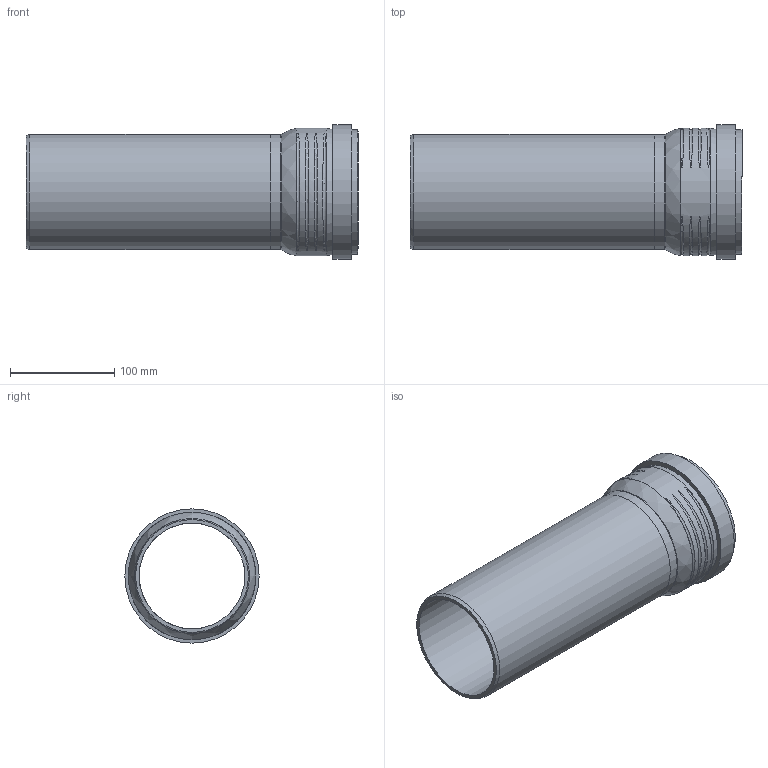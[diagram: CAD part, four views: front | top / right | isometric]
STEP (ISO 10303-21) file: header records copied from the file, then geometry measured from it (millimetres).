
FILE_DESCRIPTION(/* description */ (''),/* implementation_level */ '2;1');
FILE_NAME(/* name */ 'H:\Geberit-Teile\Export\PP_Rohr\stp\393501.stp',/* time_stamp */ '2017-02-13T16:08:09+01:00',/* author */ ('seihe2'),/* organization */ (''),/* preprocessor_version */ 'ST-DEVELOPER v15.2',/* originating_system */ 'Autodesk Inventor 2014',/* authorisation */ '');
FILE_SCHEMA (('AUTOMOTIVE_DESIGN { 1 0 10303 214 3 1 1 }'));
Length unit declared in the file: millimetre
Products named in the file (1): 393501
Bounding box: 318.1 x 128.7 x 128.7 mm (x, y, z)
Volume: 506875.7 mm3; surface area: 237922.3 mm2
Topology: 2 solids, 2 shells, 38 faces, 81 edges, 56 vertices
Faces by surface type: torus 17, cylinder 10, plane 8, cone 2, bspline 1
Full cylindrical faces by diameter (mm): 101.2 x2, 110.2 x2, 111.1 x1, 113.7 x1, 119.5 x1, 121.3 x1, 122.1 x1, 128.7 x1
Entity records: 2113 total; most frequent: CARTESIAN_POINT 1334, DIRECTION 130, ORIENTED_EDGE 124, EDGE_LOOP 69, AXIS2_PLACEMENT_3D 65, EDGE_CURVE 62, VERTEX_POINT 55, STYLED_ITEM 40
